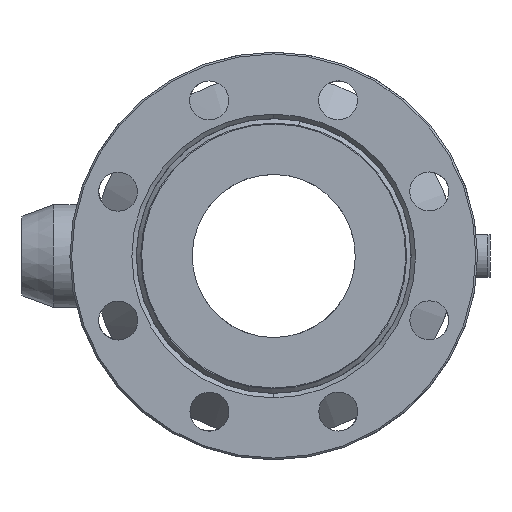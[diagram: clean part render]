
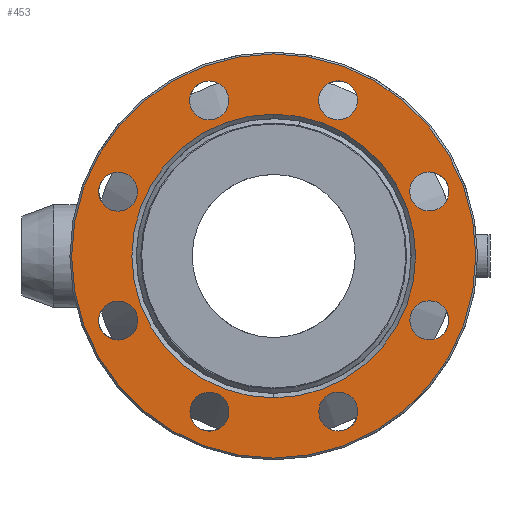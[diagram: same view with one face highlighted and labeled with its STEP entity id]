
A CAD part, left-side view. The second image highlights one B-rep face of the part: STEP entity #453.
In plain terms, the highlighted planar face has unit normal (-1, 0, 0).
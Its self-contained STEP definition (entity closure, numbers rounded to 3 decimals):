
#453=ADVANCED_FACE('',(#2166,#2168,#2170,#2172,#2174,#2176,#2178,#2180,#2182,#2184),
#2186,.T.);
#2166=FACE_BOUND('',#2167,.T.);
#2167=EDGE_LOOP('',(#3636,#3637));
#2168=FACE_BOUND('',#2169,.T.);
#2169=EDGE_LOOP('',(#3638,#3639));
#2170=FACE_BOUND('',#2171,.T.);
#2171=EDGE_LOOP('',(#3640,#3641));
#2172=FACE_BOUND('',#2173,.T.);
#2173=EDGE_LOOP('',(#3642,#3643));
#2174=FACE_BOUND('',#2175,.T.);
#2175=EDGE_LOOP('',(#3644,#3645));
#2176=FACE_BOUND('',#2177,.T.);
#2177=EDGE_LOOP('',(#3646,#3647));
#2178=FACE_BOUND('',#2179,.T.);
#2179=EDGE_LOOP('',(#3648,#3649));
#2180=FACE_BOUND('',#2181,.T.);
#2181=EDGE_LOOP('',(#3650,#3651));
#2182=FACE_BOUND('',#2183,.T.);
#2183=EDGE_LOOP('',(#3652,#3653));
#2184=FACE_OUTER_BOUND('',#2185,.T.);
#2185=EDGE_LOOP('',(#3654,#3655));
#2186=PLANE('',#2187);
#2187=AXIS2_PLACEMENT_3D('',#2188,#2189,#2190);
#2188=CARTESIAN_POINT('',(-104.548,107.419,1.028));
#2189=DIRECTION('',(-1.,0.,0.));
#2190=DIRECTION('',(0.,0.001,1.));
#3636=ORIENTED_EDGE('',*,*,#4451,.F.);
#3637=ORIENTED_EDGE('',*,*,#4445,.F.);
#3638=ORIENTED_EDGE('',*,*,#4452,.F.);
#3639=ORIENTED_EDGE('',*,*,#4441,.F.);
#3640=ORIENTED_EDGE('',*,*,#4453,.F.);
#3641=ORIENTED_EDGE('',*,*,#4437,.F.);
#3642=ORIENTED_EDGE('',*,*,#4454,.F.);
#3643=ORIENTED_EDGE('',*,*,#4433,.F.);
#3644=ORIENTED_EDGE('',*,*,#4455,.F.);
#3645=ORIENTED_EDGE('',*,*,#4429,.F.);
#3646=ORIENTED_EDGE('',*,*,#4456,.F.);
#3647=ORIENTED_EDGE('',*,*,#4425,.F.);
#3648=ORIENTED_EDGE('',*,*,#4457,.F.);
#3649=ORIENTED_EDGE('',*,*,#4421,.F.);
#3650=ORIENTED_EDGE('',*,*,#4458,.F.);
#3651=ORIENTED_EDGE('',*,*,#4417,.F.);
#3652=ORIENTED_EDGE('',*,*,#4399,.T.);
#3653=ORIENTED_EDGE('',*,*,#4459,.T.);
#3654=ORIENTED_EDGE('',*,*,#4460,.T.);
#3655=ORIENTED_EDGE('',*,*,#4405,.T.);
#4399=EDGE_CURVE('',#5337,#5335,#5338,.T.);
#4405=EDGE_CURVE('',#5348,#5349,#5350,.T.);
#4417=EDGE_CURVE('',#5369,#5371,#5372,.T.);
#4421=EDGE_CURVE('',#5377,#5379,#5380,.T.);
#4425=EDGE_CURVE('',#5385,#5387,#5388,.T.);
#4429=EDGE_CURVE('',#5393,#5395,#5396,.T.);
#4433=EDGE_CURVE('',#5401,#5403,#5404,.T.);
#4437=EDGE_CURVE('',#5409,#5411,#5412,.T.);
#4441=EDGE_CURVE('',#5417,#5419,#5420,.T.);
#4445=EDGE_CURVE('',#5425,#5427,#5428,.T.);
#4451=EDGE_CURVE('',#5427,#5425,#5434,.T.);
#4452=EDGE_CURVE('',#5419,#5417,#5435,.T.);
#4453=EDGE_CURVE('',#5411,#5409,#5436,.T.);
#4454=EDGE_CURVE('',#5403,#5401,#5437,.T.);
#4455=EDGE_CURVE('',#5395,#5393,#5438,.T.);
#4456=EDGE_CURVE('',#5387,#5385,#5439,.T.);
#4457=EDGE_CURVE('',#5379,#5377,#5440,.T.);
#4458=EDGE_CURVE('',#5371,#5369,#5441,.T.);
#4459=EDGE_CURVE('',#5335,#5337,#5442,.T.);
#4460=EDGE_CURVE('',#5349,#5348,#5443,.T.);
#5335=VERTEX_POINT('',#9267);
#5337=VERTEX_POINT('',#9271);
#5338=CIRCLE('',#9272,80.);
#5348=VERTEX_POINT('',#9297);
#5349=VERTEX_POINT('',#9298);
#5350=CIRCLE('',#9299,114.);
#5369=VERTEX_POINT('',#9345);
#5371=VERTEX_POINT('',#9349);
#5372=CIRCLE('',#9350,11.);
#5377=VERTEX_POINT('',#9363);
#5379=VERTEX_POINT('',#9367);
#5380=CIRCLE('',#9368,11.);
#5385=VERTEX_POINT('',#9381);
#5387=VERTEX_POINT('',#9385);
#5388=CIRCLE('',#9386,11.);
#5393=VERTEX_POINT('',#9399);
#5395=VERTEX_POINT('',#9403);
#5396=CIRCLE('',#9404,11.);
#5401=VERTEX_POINT('',#9417);
#5403=VERTEX_POINT('',#9421);
#5404=CIRCLE('',#9422,11.);
#5409=VERTEX_POINT('',#9435);
#5411=VERTEX_POINT('',#9439);
#5412=CIRCLE('',#9440,11.);
#5417=VERTEX_POINT('',#9453);
#5419=VERTEX_POINT('',#9457);
#5420=CIRCLE('',#9458,11.);
#5425=VERTEX_POINT('',#9471);
#5427=VERTEX_POINT('',#9475);
#5428=CIRCLE('',#9476,11.);
#5434=CIRCLE('',#9497,11.);
#5435=CIRCLE('',#9501,11.);
#5436=CIRCLE('',#9505,11.);
#5437=CIRCLE('',#9509,11.);
#5438=CIRCLE('',#9513,11.);
#5439=CIRCLE('',#9517,11.);
#5440=CIRCLE('',#9521,11.);
#5441=CIRCLE('',#9525,11.);
#5442=CIRCLE('',#9529,80.);
#5443=CIRCLE('',#9533,114.);
#9267=CARTESIAN_POINT('',(-104.548,-7.65,-78.873));
#9271=CARTESIAN_POINT('',(-104.548,-7.511,81.127));
#9272=AXIS2_PLACEMENT_3D('',#9273,#9274,#9275);
#9273=CARTESIAN_POINT('',(-104.548,-7.581,1.127));
#9274=DIRECTION('',(1.,0.,0.));
#9275=DIRECTION('',(0.,0.001,1.));
#9297=CARTESIAN_POINT('',(-104.548,-7.482,115.127));
#9298=CARTESIAN_POINT('',(-104.548,-7.68,-112.873));
#9299=AXIS2_PLACEMENT_3D('',#9300,#9301,#9302);
#9300=CARTESIAN_POINT('',(-104.548,-7.581,1.127));
#9301=DIRECTION('',(-1.,0.,0.));
#9302=DIRECTION('',(0.,0.001,1.));
#9345=CARTESIAN_POINT('',(-104.548,28.688,-97.673));
#9349=CARTESIAN_POINT('',(-104.548,28.707,-75.673));
#9350=AXIS2_PLACEMENT_3D('',#9351,#9352,#9353);
#9351=CARTESIAN_POINT('',(-104.548,28.698,-86.673));
#9352=DIRECTION('',(-1.,0.,0.));
#9353=DIRECTION('',(0.,-0.001,-1.));
#9363=CARTESIAN_POINT('',(-104.548,80.147,-46.304));
#9367=CARTESIAN_POINT('',(-104.548,80.166,-24.304));
#9368=AXIS2_PLACEMENT_3D('',#9369,#9370,#9371);
#9369=CARTESIAN_POINT('',(-104.548,80.156,-35.304));
#9370=DIRECTION('',(-1.,0.,0.));
#9371=DIRECTION('',(0.,-0.001,-1.));
#9381=CARTESIAN_POINT('',(-104.548,28.841,77.864));
#9385=CARTESIAN_POINT('',(-104.548,28.86,99.864));
#9386=AXIS2_PLACEMENT_3D('',#9387,#9388,#9389);
#9387=CARTESIAN_POINT('',(-104.548,28.85,88.864));
#9388=DIRECTION('',(-1.,0.,0.));
#9389=DIRECTION('',(0.,-0.001,-1.));
#9399=CARTESIAN_POINT('',(-104.548,80.21,26.406));
#9403=CARTESIAN_POINT('',(-104.548,80.229,48.406));
#9404=AXIS2_PLACEMENT_3D('',#9405,#9406,#9407);
#9405=CARTESIAN_POINT('',(-104.548,80.219,37.406));
#9406=DIRECTION('',(-1.,0.,0.));
#9407=DIRECTION('',(0.,-0.001,-1.));
#9417=CARTESIAN_POINT('',(-104.548,-44.021,-97.61));
#9421=CARTESIAN_POINT('',(-104.548,-44.002,-75.61));
#9422=AXIS2_PLACEMENT_3D('',#9423,#9424,#9425);
#9423=CARTESIAN_POINT('',(-104.548,-44.012,-86.61));
#9424=DIRECTION('',(-1.,0.,0.));
#9425=DIRECTION('',(0.,-0.001,-1.));
#9435=CARTESIAN_POINT('',(-104.548,-95.39,-46.151));
#9439=CARTESIAN_POINT('',(-104.548,-95.371,-24.151));
#9440=AXIS2_PLACEMENT_3D('',#9441,#9442,#9443);
#9441=CARTESIAN_POINT('',(-104.548,-95.381,-35.151));
#9442=DIRECTION('',(-1.,0.,0.));
#9443=DIRECTION('',(0.,-0.001,-1.));
#9453=CARTESIAN_POINT('',(-104.548,-43.869,77.927));
#9457=CARTESIAN_POINT('',(-104.548,-43.85,99.927));
#9458=AXIS2_PLACEMENT_3D('',#9459,#9460,#9461);
#9459=CARTESIAN_POINT('',(-104.548,-43.86,88.927));
#9460=DIRECTION('',(-1.,0.,0.));
#9461=DIRECTION('',(0.,-0.001,-1.));
#9471=CARTESIAN_POINT('',(-104.548,-95.327,26.558));
#9475=CARTESIAN_POINT('',(-104.548,-95.308,48.558));
#9476=AXIS2_PLACEMENT_3D('',#9477,#9478,#9479);
#9477=CARTESIAN_POINT('',(-104.548,-95.318,37.558));
#9478=DIRECTION('',(-1.,0.,0.));
#9479=DIRECTION('',(0.,-0.001,-1.));
#9497=AXIS2_PLACEMENT_3D('',#9498,#9499,#9500);
#9498=CARTESIAN_POINT('',(-104.548,-95.318,37.558));
#9499=DIRECTION('',(-1.,0.,0.));
#9500=DIRECTION('',(0.,0.001,1.));
#9501=AXIS2_PLACEMENT_3D('',#9502,#9503,#9504);
#9502=CARTESIAN_POINT('',(-104.548,-43.86,88.927));
#9503=DIRECTION('',(-1.,0.,0.));
#9504=DIRECTION('',(0.,0.001,1.));
#9505=AXIS2_PLACEMENT_3D('',#9506,#9507,#9508);
#9506=CARTESIAN_POINT('',(-104.548,-95.381,-35.151));
#9507=DIRECTION('',(-1.,0.,0.));
#9508=DIRECTION('',(0.,0.001,1.));
#9509=AXIS2_PLACEMENT_3D('',#9510,#9511,#9512);
#9510=CARTESIAN_POINT('',(-104.548,-44.012,-86.61));
#9511=DIRECTION('',(-1.,0.,0.));
#9512=DIRECTION('',(0.,0.001,1.));
#9513=AXIS2_PLACEMENT_3D('',#9514,#9515,#9516);
#9514=CARTESIAN_POINT('',(-104.548,80.219,37.406));
#9515=DIRECTION('',(-1.,0.,0.));
#9516=DIRECTION('',(0.,0.001,1.));
#9517=AXIS2_PLACEMENT_3D('',#9518,#9519,#9520);
#9518=CARTESIAN_POINT('',(-104.548,28.85,88.864));
#9519=DIRECTION('',(-1.,0.,0.));
#9520=DIRECTION('',(0.,0.001,1.));
#9521=AXIS2_PLACEMENT_3D('',#9522,#9523,#9524);
#9522=CARTESIAN_POINT('',(-104.548,80.156,-35.304));
#9523=DIRECTION('',(-1.,0.,0.));
#9524=DIRECTION('',(0.,0.001,1.));
#9525=AXIS2_PLACEMENT_3D('',#9526,#9527,#9528);
#9526=CARTESIAN_POINT('',(-104.548,28.698,-86.673));
#9527=DIRECTION('',(-1.,0.,0.));
#9528=DIRECTION('',(0.,0.001,1.));
#9529=AXIS2_PLACEMENT_3D('',#9530,#9531,#9532);
#9530=CARTESIAN_POINT('',(-104.548,-7.581,1.127));
#9531=DIRECTION('',(1.,0.,0.));
#9532=DIRECTION('',(0.,-0.001,-1.));
#9533=AXIS2_PLACEMENT_3D('',#9534,#9535,#9536);
#9534=CARTESIAN_POINT('',(-104.548,-7.581,1.127));
#9535=DIRECTION('',(-1.,0.,0.));
#9536=DIRECTION('',(0.,-0.001,-1.));
